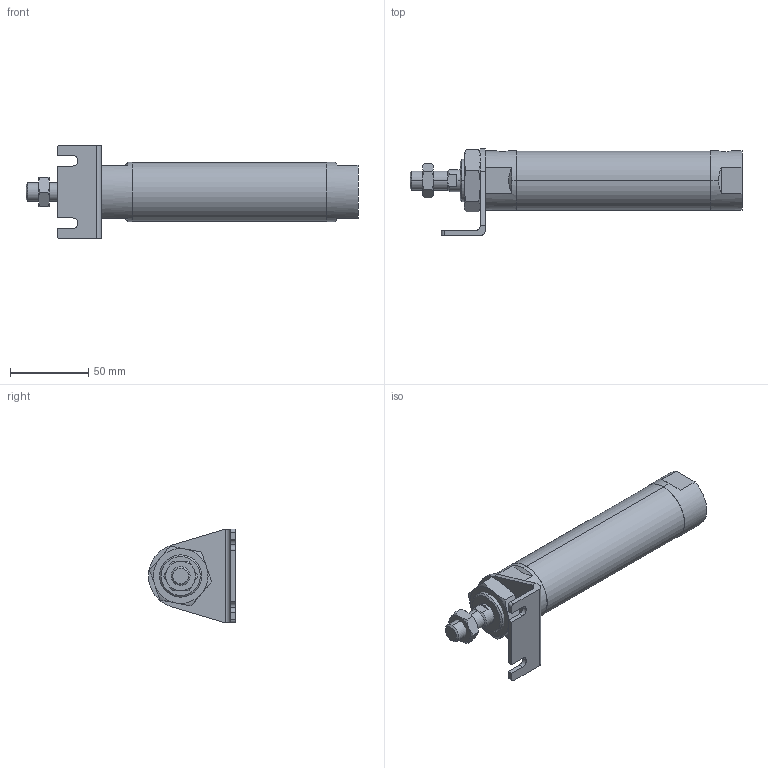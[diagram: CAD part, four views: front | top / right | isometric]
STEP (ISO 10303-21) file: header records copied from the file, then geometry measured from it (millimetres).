
FILE_DESCRIPTION (( 'STEP AP203' ), '1' );
FILE_NAME ('JGND2-32-75-L.STEP', '2016-08-04T02:49:33', ( '' ), ( '' ), 'SwSTEP 2.0', 'SolidWorks 2014', '' );
FILE_SCHEMA (( 'CONFIG_CONTROL_DESIGN' ));
Length unit declared in the file: millimetre
Products named in the file (5): JGND2-32-75-L; J#2-32-L; J#2-32-75(P)
Assembly tree (4 placements, depth 2):
  JGND2-32-75-L
    J#2-32-75(P)
    (unnamed)
    (unnamed)
    J#2-32-L
Bounding box: 212 x 55.5 x 60 mm (x, y, z)
Volume: 209520.3 mm3; surface area: 37169.4 mm2
Topology: 4 solids, 4 shells, 116 faces, 273 edges, 167 vertices
Faces by surface type: plane 47, cylinder 32, torus 24, cone 13
Entity records: 4285 total; most frequent: CARTESIAN_POINT 1166, DIRECTION 548, ORIENTED_EDGE 538, EDGE_CURVE 269, AXIS2_PLACEMENT_3D 219, VERTEX_POINT 167, EDGE_LOOP 128, ADVANCED_FACE 116
